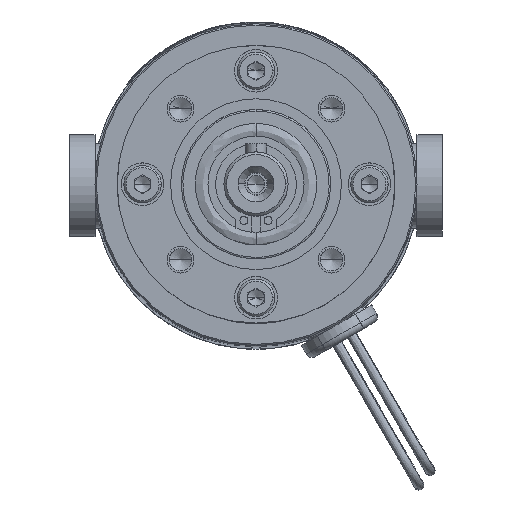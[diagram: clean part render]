
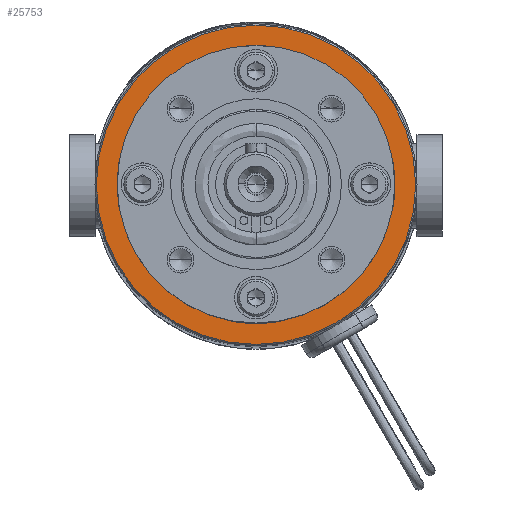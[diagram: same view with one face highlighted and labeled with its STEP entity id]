
A CAD part, top view. The second image highlights one B-rep face of the part: STEP entity #25753.
In plain terms, the highlighted planar face has unit normal (0, 0, 1).
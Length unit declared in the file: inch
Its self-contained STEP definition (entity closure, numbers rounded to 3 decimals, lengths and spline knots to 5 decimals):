
#2423 = AXIS2_PLACEMENT_3D ( 'NONE', #41544, #103029, #50373 ) ;
#4521 = DIRECTION ( 'NONE',  ( 0., 0., 1. ) ) ;
#4853 = DIRECTION ( 'NONE',  ( 1., 0., 0. ) ) ;
#12002 = AXIS2_PLACEMENT_3D ( 'NONE', #73254, #20583, #82102 ) ;
#12722 = CARTESIAN_POINT ( 'NONE',  ( 0., 0., -0.68406 ) ) ;
#17141 = EDGE_LOOP ( 'NONE', ( #53199, #25752 ) ) ;
#20583 = DIRECTION ( 'NONE',  ( 0., 0., 1. ) ) ;
#21652 = DIRECTION ( 'NONE',  ( 1., 0., 0. ) ) ;
#25752 = ORIENTED_EDGE ( 'NONE', *, *, #84989, .F. ) ;
#25753 = ADVANCED_FACE ( 'NONE', ( #72666, #49263 ), #54782, .T. ) ;
#32074 = CIRCLE ( 'NONE', #2423, 1.1775 ) ;
#41544 = CARTESIAN_POINT ( 'NONE',  ( 0., 0., -0.68406 ) ) ;
#46381 = CARTESIAN_POINT ( 'NONE',  ( -0.9595, 0., -0.68406 ) ) ;
#49263 = FACE_BOUND ( 'NONE', #17141, .T. ) ;
#50373 = DIRECTION ( 'NONE',  ( 1., 0., 0. ) ) ;
#51053 = CARTESIAN_POINT ( 'NONE',  ( 0.9595, 0., -0.68406 ) ) ;
#53199 = ORIENTED_EDGE ( 'NONE', *, *, #66081, .F. ) ;
#54366 = CARTESIAN_POINT ( 'NONE',  ( -1.1775, 0., -0.68406 ) ) ;
#54782 = PLANE ( 'NONE',  #12002 ) ;
#56325 = AXIS2_PLACEMENT_3D ( 'NONE', #12722, #74337, #21652 ) ;
#57091 = VERTEX_POINT ( 'NONE', #51053 ) ;
#57365 = CARTESIAN_POINT ( 'NONE',  ( 0., 0., -0.68406 ) ) ;
#57705 = DIRECTION ( 'NONE',  ( 0., 0., 1. ) ) ;
#58077 = CARTESIAN_POINT ( 'NONE',  ( 1.1775, 0., -0.68406 ) ) ;
#61603 = VERTEX_POINT ( 'NONE', #54366 ) ;
#61693 = EDGE_CURVE ( 'NONE', #61603, #64890, #91964, .T. ) ;
#64890 = VERTEX_POINT ( 'NONE', #58077 ) ;
#66081 = EDGE_CURVE ( 'NONE', #57091, #74110, #84506, .T. ) ;
#66257 = DIRECTION ( 'NONE',  ( 1., 0., 0. ) ) ;
#72369 = ORIENTED_EDGE ( 'NONE', *, *, #73300, .T. ) ;
#72666 = FACE_OUTER_BOUND ( 'NONE', #82345, .T. ) ;
#73254 = CARTESIAN_POINT ( 'NONE',  ( 0., 1.1875, -0.68406 ) ) ;
#73300 = EDGE_CURVE ( 'NONE', #64890, #61603, #32074, .T. ) ;
#74110 = VERTEX_POINT ( 'NONE', #46381 ) ;
#74337 = DIRECTION ( 'NONE',  ( 0., 0., 1. ) ) ;
#74717 = AXIS2_PLACEMENT_3D ( 'NONE', #57365, #4521, #66257 ) ;
#80221 = ORIENTED_EDGE ( 'NONE', *, *, #61693, .T. ) ;
#81855 = CIRCLE ( 'NONE', #74717, 0.9595 ) ;
#82102 = DIRECTION ( 'NONE',  ( 1., 0., 0. ) ) ;
#82345 = EDGE_LOOP ( 'NONE', ( #80221, #72369 ) ) ;
#84506 = CIRCLE ( 'NONE', #92235, 0.9595 ) ;
#84989 = EDGE_CURVE ( 'NONE', #74110, #57091, #81855, .T. ) ;
#91964 = CIRCLE ( 'NONE', #56325, 1.1775 ) ;
#92235 = AXIS2_PLACEMENT_3D ( 'NONE', #110375, #57705, #4853 ) ;
#103029 = DIRECTION ( 'NONE',  ( 0., 0., 1. ) ) ;
#110375 = CARTESIAN_POINT ( 'NONE',  ( 0., 0., -0.68406 ) ) ;
